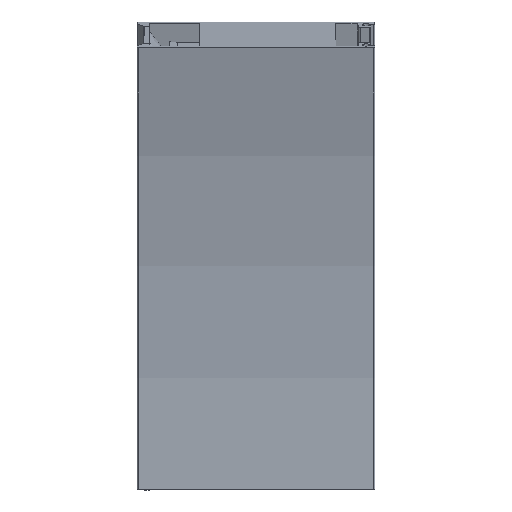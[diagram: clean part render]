
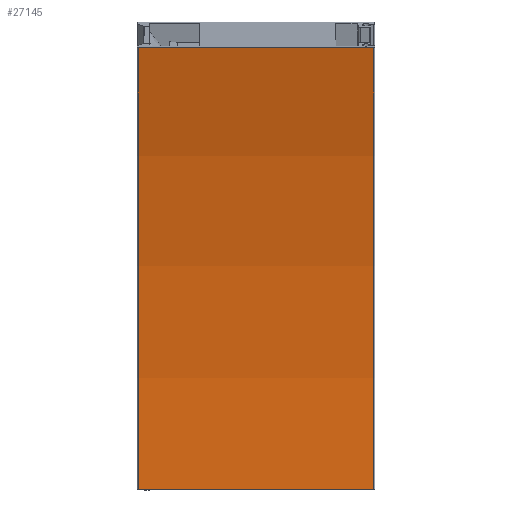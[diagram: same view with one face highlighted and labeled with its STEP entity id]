
A CAD part, left-side view. The second image highlights one B-rep face of the part: STEP entity #27145.
In plain terms, the highlighted cylindrical face has radius 572.2 mm (diameter 1144.4 mm), a partial arc.
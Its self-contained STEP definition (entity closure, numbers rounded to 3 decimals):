
#4483=CYLINDRICAL_SURFACE('',#28811,572.2);
#4666=LINE('',#37140,#5794);
#4667=LINE('',#37142,#5795);
#5794=VECTOR('',#31261,10.);
#5795=VECTOR('',#31262,10.);
#7325=FACE_OUTER_BOUND('',#8880,.T.);
#8880=EDGE_LOOP('',(#18695,#18696,#18697,#18698));
#10573=CIRCLE('',#28810,572.2);
#10574=CIRCLE('',#28812,572.2);
#11692=VERTEX_POINT('',#37133);
#11693=VERTEX_POINT('',#37135);
#11694=VERTEX_POINT('',#37139);
#11695=VERTEX_POINT('',#37141);
#14451=EDGE_CURVE('',#11692,#11693,#10573,.T.);
#14452=EDGE_CURVE('',#11694,#11692,#4666,.T.);
#14453=EDGE_CURVE('',#11695,#11693,#4667,.T.);
#14454=EDGE_CURVE('',#11694,#11695,#10574,.T.);
#18695=ORIENTED_EDGE('',*,*,#14452,.T.);
#18696=ORIENTED_EDGE('',*,*,#14451,.T.);
#18697=ORIENTED_EDGE('',*,*,#14453,.F.);
#18698=ORIENTED_EDGE('',*,*,#14454,.F.);
#27145=ADVANCED_FACE('',(#7325),#4483,.F.);
#28810=AXIS2_PLACEMENT_3D('',#37137,#31257,#31258);
#28811=AXIS2_PLACEMENT_3D('',#37138,#31259,#31260);
#28812=AXIS2_PLACEMENT_3D('',#37143,#31263,#31264);
#31257=DIRECTION('center_axis',(0.,-1.,0.));
#31258=DIRECTION('ref_axis',(1.,0.,0.));
#31259=DIRECTION('center_axis',(0.,-1.,0.));
#31260=DIRECTION('ref_axis',(1.,0.,0.));
#31261=DIRECTION('',(0.,-1.,0.));
#31262=DIRECTION('',(0.,-1.,0.));
#31263=DIRECTION('center_axis',(0.,-1.,0.));
#31264=DIRECTION('ref_axis',(1.,0.,0.));
#37133=CARTESIAN_POINT('',(-18.595,-41.736,0.));
#37135=CARTESIAN_POINT('',(-46.6,-41.736,176.82));
#37137=CARTESIAN_POINT('Origin',(-590.795,-41.736,0.));
#37138=CARTESIAN_POINT('Origin',(-590.795,5.314,0.));
#37139=CARTESIAN_POINT('',(-18.595,52.364,0.));
#37140=CARTESIAN_POINT('',(-18.595,52.364,0.));
#37141=CARTESIAN_POINT('',(-46.6,52.364,176.82));
#37142=CARTESIAN_POINT('',(-46.6,52.364,176.82));
#37143=CARTESIAN_POINT('Origin',(-590.795,52.364,0.));
